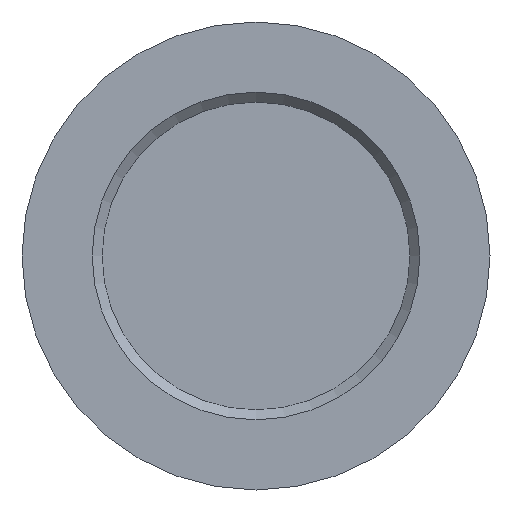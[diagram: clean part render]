
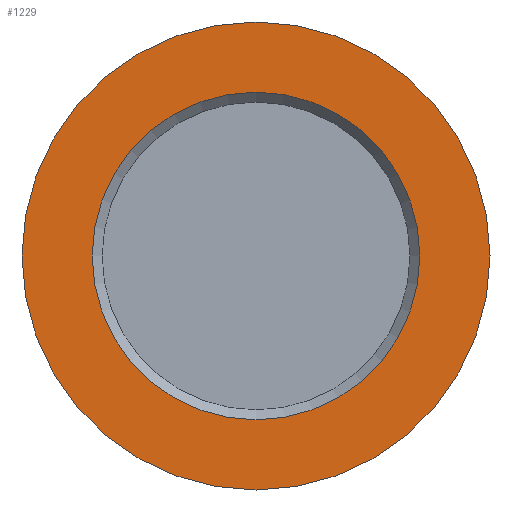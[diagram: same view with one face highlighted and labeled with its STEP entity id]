
A CAD part, front view. The second image highlights one B-rep face of the part: STEP entity #1229.
In plain terms, the highlighted planar face has unit normal (0, -1, 0).
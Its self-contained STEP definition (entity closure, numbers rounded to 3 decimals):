
#223=CIRCLE('',#1681,66.5);
#224=CIRCLE('',#1682,95.);
#424=ORIENTED_EDGE('',*,*,#571,.T.);
#425=ORIENTED_EDGE('',*,*,#572,.F.);
#571=EDGE_CURVE('',#676,#676,#223,.T.);
#572=EDGE_CURVE('',#677,#677,#224,.T.);
#676=VERTEX_POINT('',#2413);
#677=VERTEX_POINT('',#2415);
#887=EDGE_LOOP('',(#424));
#888=EDGE_LOOP('',(#425));
#1074=FACE_BOUND('',#887,.T.);
#1075=FACE_BOUND('',#888,.T.);
#1163=PLANE('',#1680);
#1229=ADVANCED_FACE('',(#1074,#1075),#1163,.F.);
#1680=AXIS2_PLACEMENT_3D('',#2411,#2053,#2054);
#1681=AXIS2_PLACEMENT_3D('',#2412,#2055,#2056);
#1682=AXIS2_PLACEMENT_3D('',#2414,#2057,#2058);
#2053=DIRECTION('',(0.,1.,0.));
#2054=DIRECTION('',(0.,0.,1.));
#2055=DIRECTION('',(0.,1.,0.));
#2056=DIRECTION('',(0.,0.,1.));
#2057=DIRECTION('',(0.,1.,0.));
#2058=DIRECTION('',(0.,0.,1.));
#2411=CARTESIAN_POINT('',(0.,0.,0.));
#2412=CARTESIAN_POINT('',(0.,0.,0.));
#2413=CARTESIAN_POINT('',(0.,0.,66.5));
#2414=CARTESIAN_POINT('',(0.,0.,0.));
#2415=CARTESIAN_POINT('',(0.,0.,95.));
